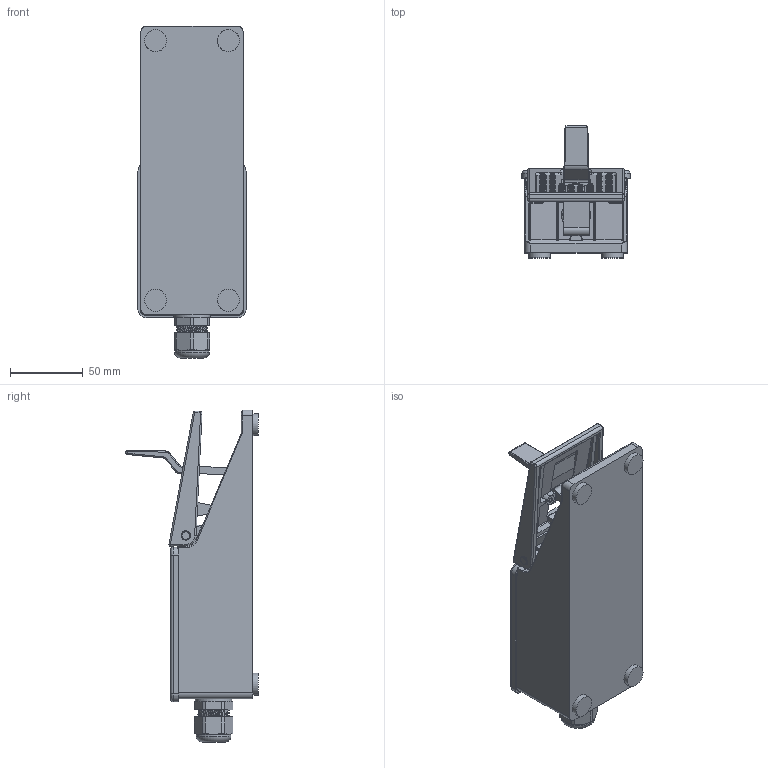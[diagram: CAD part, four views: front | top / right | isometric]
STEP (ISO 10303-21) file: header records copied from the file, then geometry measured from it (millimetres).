
FILE_DESCRIPTION(('Interreptor de Pedal Industrial'),'2;1');
FILE_NAME('E:\WorkFolder\Bibl\3DWeb\kp_sf_sf$z2.stp','2018-10-26T15:25:47',('DIE'),('KAP Componentes Eletricos Ltda.'),'Autodesk Inventor 2011','Autodesk Inventor 2011','Direitos reservados. Proibido reproducao, cedencia ou revelacao de conteudo a terceiros, salvo com autorizacao.');
FILE_SCHEMA(('AUTOMOTIVE_DESIGN { 1 0 10303 214 1 1 1 1 }'));
Length unit declared in the file: millimetre
Products named in the file (1): Part11
Bounding box: 74.04 x 90.63 x 227.6 mm (x, y, z)
Volume: 562169 mm3; surface area: 88622.4 mm2
Topology: 1 solids, 7 shells, 1839 faces, 4537 edges, 2620 vertices
Faces by surface type: cylinder 756, plane 657, sphere 278, bspline 75, cone 48, torus 25
Full cylindrical faces by diameter (mm): 3.2 x2, 3.575 x2, 6.35 x2, 6.4 x4, 7 x2, 7.4 x2, 8.4 x1, 9.525 x1, 12 x2, 13.2 x1, 14 x1, 14.1 x1, 14.5 x1, 15 x4, 17 x1, 20 x1, 20.6 x1, 23.8 x1, 25.2 x1
Entity records: 57346 total; most frequent: CARTESIAN_POINT 14435, DIRECTION 9523, ORIENTED_EDGE 8640, EDGE_CURVE 4320, AXIS2_PLACEMENT_3D 3638, VERTEX_POINT 2591, VECTOR 2247, LINE 2247
